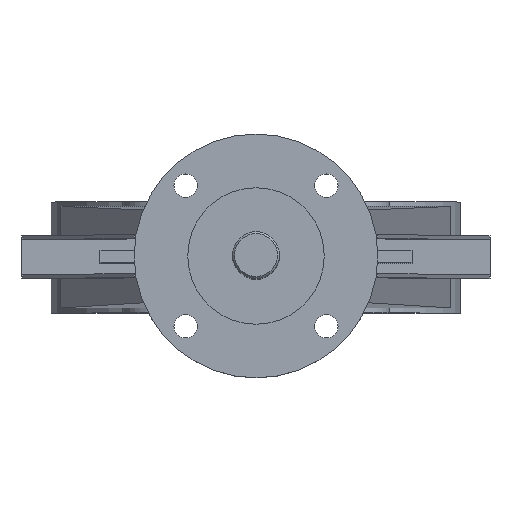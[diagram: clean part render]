
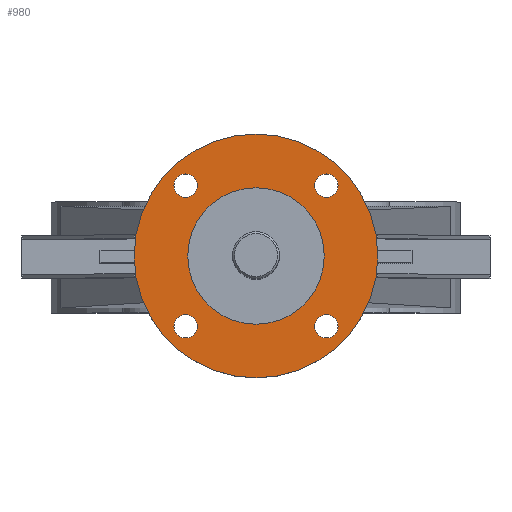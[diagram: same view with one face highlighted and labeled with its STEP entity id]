
A CAD part, top view. The second image highlights one B-rep face of the part: STEP entity #980.
In plain terms, the highlighted planar face has unit normal (0, 0, 1).
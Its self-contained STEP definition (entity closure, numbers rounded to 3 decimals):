
#980=ADVANCED_FACE('',(#2231,#2233,#2235,#2237,#2239,#2241),#2243,.T.);
#2231=FACE_BOUND('',#2232,.T.);
#2232=EDGE_LOOP('',(#3267));
#2233=FACE_BOUND('',#2234,.T.);
#2234=EDGE_LOOP('',(#3268));
#2235=FACE_BOUND('',#2236,.T.);
#2236=EDGE_LOOP('',(#3269));
#2237=FACE_BOUND('',#2238,.T.);
#2238=EDGE_LOOP('',(#3270));
#2239=FACE_BOUND('',#2240,.T.);
#2240=EDGE_LOOP('',(#3271));
#2241=FACE_BOUND('',#2242,.T.);
#2242=EDGE_LOOP('',(#3272));
#2243=PLANE('',#2244);
#2244=AXIS2_PLACEMENT_3D('',#2245,#2246,#2247);
#2245=CARTESIAN_POINT('',(0.,0.,490.));
#2246=DIRECTION('',(0.,0.,1.));
#2247=DIRECTION('',(-1.,0.,0.));
#3267=ORIENTED_EDGE('',*,*,#3683,.T.);
#3268=ORIENTED_EDGE('',*,*,#3684,.T.);
#3269=ORIENTED_EDGE('',*,*,#3685,.T.);
#3270=ORIENTED_EDGE('',*,*,#3686,.T.);
#3271=ORIENTED_EDGE('',*,*,#3807,.T.);
#3272=ORIENTED_EDGE('',*,*,#3687,.T.);
#3683=EDGE_CURVE('',#4259,#4259,#4260,.T.);
#3684=EDGE_CURVE('',#4261,#4261,#4262,.F.);
#3685=EDGE_CURVE('',#4263,#4263,#4264,.F.);
#3686=EDGE_CURVE('',#4265,#4265,#4266,.F.);
#3687=EDGE_CURVE('',#4267,#4267,#4268,.F.);
#3807=EDGE_CURVE('',#4474,#4474,#4475,.F.);
#4259=VERTEX_POINT('',#5477);
#4260=CIRCLE('',#5478,62.5);
#4261=VERTEX_POINT('',#5482);
#4262=CIRCLE('',#5483,6.);
#4263=VERTEX_POINT('',#5487);
#4264=CIRCLE('',#5488,6.);
#4265=VERTEX_POINT('',#5492);
#4266=CIRCLE('',#5493,6.);
#4267=VERTEX_POINT('',#5497);
#4268=CIRCLE('',#5498,6.);
#4474=VERTEX_POINT('',#6002);
#4475=CIRCLE('',#6003,35.);
#5477=CARTESIAN_POINT('',(-62.5,0.,490.));
#5478=AXIS2_PLACEMENT_3D('',#5479,#5480,#5481);
#5479=CARTESIAN_POINT('',(0.,0.,490.));
#5480=DIRECTION('',(0.,0.,1.));
#5481=DIRECTION('',(-1.,0.,0.));
#5482=CARTESIAN_POINT('',(-42.062,-36.062,490.));
#5483=AXIS2_PLACEMENT_3D('',#5484,#5485,#5486);
#5484=CARTESIAN_POINT('',(-36.062,-36.062,490.));
#5485=DIRECTION('',(0.,0.,1.));
#5486=DIRECTION('',(-1.,0.,0.));
#5487=CARTESIAN_POINT('',(36.062,-42.062,490.));
#5488=AXIS2_PLACEMENT_3D('',#5489,#5490,#5491);
#5489=CARTESIAN_POINT('',(36.062,-36.062,490.));
#5490=DIRECTION('',(0.,0.,1.));
#5491=DIRECTION('',(0.,-1.,0.));
#5492=CARTESIAN_POINT('',(42.062,36.062,490.));
#5493=AXIS2_PLACEMENT_3D('',#5494,#5495,#5496);
#5494=CARTESIAN_POINT('',(36.062,36.062,490.));
#5495=DIRECTION('',(0.,0.,1.));
#5496=DIRECTION('',(1.,0.,-0.));
#5497=CARTESIAN_POINT('',(-36.062,42.062,490.));
#5498=AXIS2_PLACEMENT_3D('',#5499,#5500,#5501);
#5499=CARTESIAN_POINT('',(-36.062,36.062,490.));
#5500=DIRECTION('',(0.,0.,1.));
#5501=DIRECTION('',(0.,1.,0.));
#6002=CARTESIAN_POINT('',(0.,35.,490.));
#6003=AXIS2_PLACEMENT_3D('',#6004,#6005,#6006);
#6004=CARTESIAN_POINT('',(0.,0.,490.));
#6005=DIRECTION('',(0.,0.,1.));
#6006=DIRECTION('',(0.,1.,0.));
